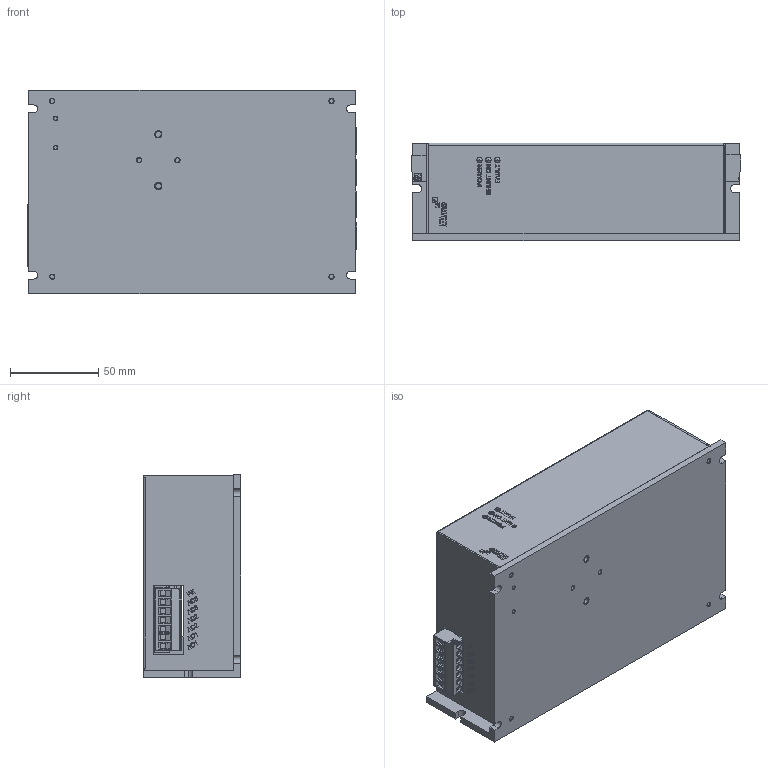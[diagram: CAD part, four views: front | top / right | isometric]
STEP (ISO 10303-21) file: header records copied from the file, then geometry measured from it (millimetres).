
FILE_DESCRIPTION (( 'STEP AP203' ), '1' );
FILE_NAME ('TAM20-230.STEP', '2013-09-03T05:43:42', ( 'YAEL' ), ( 'Microsoft' ), 'SwSTEP 2.0', 'SolidWorks 2013', '' );
FILE_SCHEMA (( 'CONFIG_CONTROL_DESIGN' ));
Length unit declared in the file: millimetre
Products named in the file (1): TAM20-230
Bounding box: 186.28 x 55 x 115 mm (x, y, z)
Volume: 184633 mm3; surface area: 163016.1 mm2
Topology: 23 solids, 23 shells, 5070 faces, 13479 edges, 8839 vertices
Faces by surface type: plane 3997, cylinder 720, bspline 240, cone 107, torus 6
Entity records: 171951 total; most frequent: CARTESIAN_POINT 48514, ORIENTED_EDGE 26930, DIRECTION 22758, EDGE_CURVE 13465, VECTOR 10638, LINE 10638, VERTEX_POINT 8838, AXIS2_PLACEMENT_3D 6060
